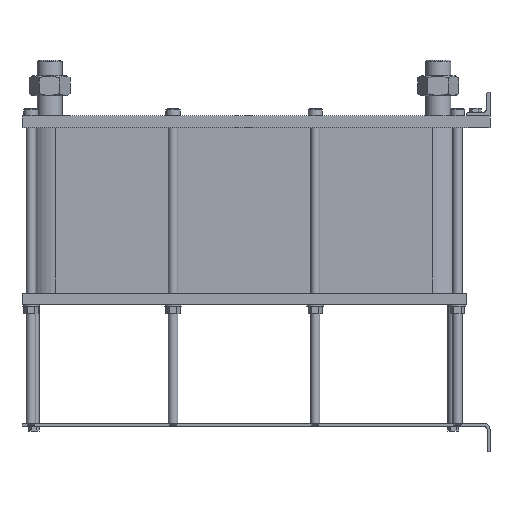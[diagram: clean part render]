
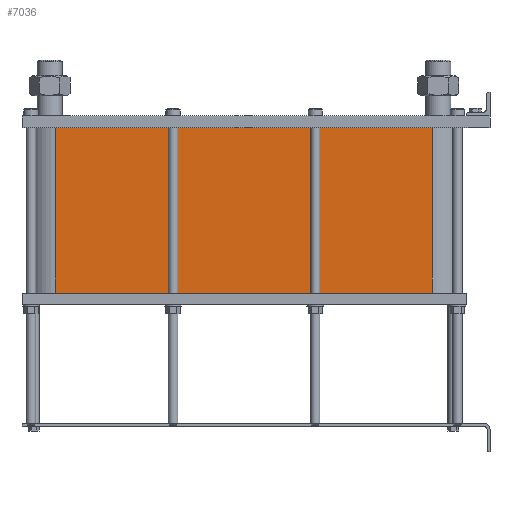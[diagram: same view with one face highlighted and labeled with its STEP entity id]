
A CAD part, left-side view. The second image highlights one B-rep face of the part: STEP entity #7036.
In plain terms, the highlighted planar face has unit normal (-1, 0, 0).
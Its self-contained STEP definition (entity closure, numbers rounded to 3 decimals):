
#999=LINE('',#15640,#1553);
#1031=LINE('',#15723,#1585);
#1032=LINE('',#15726,#1586);
#1033=LINE('',#15727,#1587);
#1553=VECTOR('',#9658,10.);
#1585=VECTOR('',#9736,10.);
#1586=VECTOR('',#9741,10.);
#1587=VECTOR('',#9742,10.);
#2117=FACE_OUTER_BOUND('',#2671,.T.);
#2671=EDGE_LOOP('',(#6246,#6247,#6248,#6249));
#3527=VERTEX_POINT('',#15634);
#3529=VERTEX_POINT('',#15638);
#3556=VERTEX_POINT('',#15720);
#3557=VERTEX_POINT('',#15722);
#4425=EDGE_CURVE('',#3529,#3527,#999,.T.);
#4466=EDGE_CURVE('',#3557,#3556,#1031,.T.);
#4468=EDGE_CURVE('',#3527,#3556,#1032,.T.);
#4469=EDGE_CURVE('',#3557,#3529,#1033,.T.);
#6246=ORIENTED_EDGE('',*,*,#4468,.F.);
#6247=ORIENTED_EDGE('',*,*,#4425,.F.);
#6248=ORIENTED_EDGE('',*,*,#4469,.F.);
#6249=ORIENTED_EDGE('',*,*,#4466,.T.);
#6608=PLANE('',#7812);
#7036=ADVANCED_FACE('',(#2117),#6608,.T.);
#7812=AXIS2_PLACEMENT_3D('',#15725,#9739,#9740);
#9658=DIRECTION('',(0.,0.,-1.));
#9736=DIRECTION('',(0.,0.,-1.));
#9739=DIRECTION('center_axis',(-1.,0.,0.));
#9740=DIRECTION('ref_axis',(0.,1.,0.));
#9741=DIRECTION('',(0.,1.,0.));
#9742=DIRECTION('',(0.,-1.,0.));
#15634=CARTESIAN_POINT('',(-72.,97.5,-279.));
#15638=CARTESIAN_POINT('',(-72.,97.5,0.));
#15640=CARTESIAN_POINT('',(-72.,97.5,0.));
#15720=CARTESIAN_POINT('',(-72.,733.5,-279.));
#15722=CARTESIAN_POINT('',(-72.,733.5,0.));
#15723=CARTESIAN_POINT('',(-72.,733.5,0.));
#15725=CARTESIAN_POINT('Origin',(-72.,97.5,0.));
#15726=CARTESIAN_POINT('',(-72.,256.5,-279.));
#15727=CARTESIAN_POINT('',(-72.,733.5,0.));
